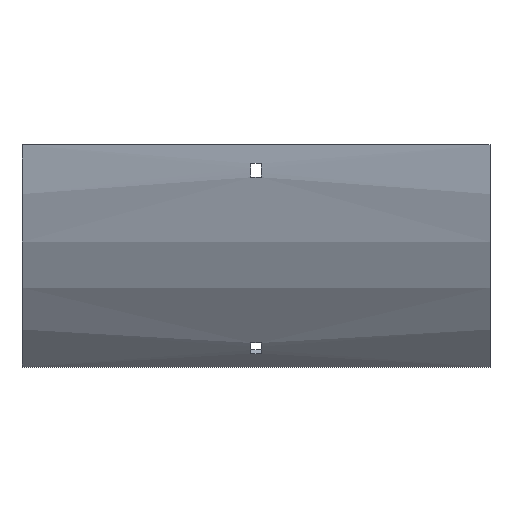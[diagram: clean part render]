
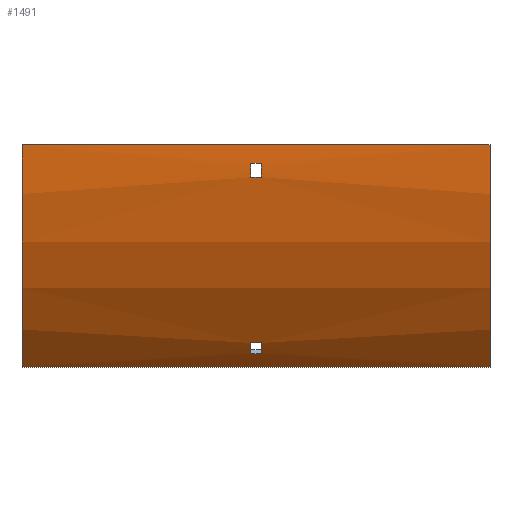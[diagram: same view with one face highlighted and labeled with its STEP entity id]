
A CAD part, front view. The second image highlights one B-rep face of the part: STEP entity #1491.
In plain terms, the highlighted cylindrical face has radius 204 mm (diameter 408 mm), a partial arc.
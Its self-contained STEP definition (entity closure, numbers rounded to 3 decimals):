
#4 = CARTESIAN_POINT ( 'NONE',  ( -3.25, -52.485, -135.515 ) ) ;
#48 = ORIENTED_EDGE ( 'NONE', *, *, #305, .F. ) ;
#63 = ORIENTED_EDGE ( 'NONE', *, *, #1082, .T. ) ;
#65 = VERTEX_POINT ( 'NONE', #1314 ) ;
#120 = VERTEX_POINT ( 'NONE', #4 ) ;
#132 = CARTESIAN_POINT ( 'NONE',  ( 152., -44.25, -144.25 ) ) ;
#176 = VERTEX_POINT ( 'NONE', #792 ) ;
#182 = VERTEX_POINT ( 'NONE', #519 ) ;
#189 = VECTOR ( 'NONE', #1650, 1000. ) ;
#202 = CARTESIAN_POINT ( 'NONE',  ( 3.25, -103.647, -12. ) ) ;
#214 = DIRECTION ( 'NONE',  ( 1., 0., 0. ) ) ;
#234 = ORIENTED_EDGE ( 'NONE', *, *, #494, .T. ) ;
#237 = AXIS2_PLACEMENT_3D ( 'NONE', #926, #658, #630 ) ;
#238 = ORIENTED_EDGE ( 'NONE', *, *, #370, .F. ) ;
#239 = EDGE_CURVE ( 'NONE', #1042, #120, #1527, .T. ) ;
#243 = DIRECTION ( 'NONE',  ( 0., 0., -1. ) ) ;
#262 = CARTESIAN_POINT ( 'NONE',  ( 152., -102.916, -21. ) ) ;
#274 = VERTEX_POINT ( 'NONE', #1026 ) ;
#281 = DIRECTION ( 'NONE',  ( 0., 0., 1. ) ) ;
#305 = EDGE_CURVE ( 'NONE', #587, #1042, #1044, .T. ) ;
#321 = ORIENTED_EDGE ( 'NONE', *, *, #1137, .T. ) ;
#328 = ORIENTED_EDGE ( 'NONE', *, *, #578, .F. ) ;
#356 = CARTESIAN_POINT ( 'NONE',  ( -3.25, 100., 0. ) ) ;
#364 = CARTESIAN_POINT ( 'NONE',  ( 152., -104., 0. ) ) ;
#370 = EDGE_CURVE ( 'NONE', #912, #456, #1339, .T. ) ;
#372 = CIRCLE ( 'NONE', #1674, 204. ) ;
#396 = DIRECTION ( 'NONE',  ( -1., 0., 0. ) ) ;
#427 = VECTOR ( 'NONE', #1027, 1000. ) ;
#438 = EDGE_LOOP ( 'NONE', ( #63, #238, #328, #321 ) ) ;
#440 = CARTESIAN_POINT ( 'NONE',  ( 152., -44.25, -144.25 ) ) ;
#442 = FACE_OUTER_BOUND ( 'NONE', #438, .T. ) ;
#444 = CIRCLE ( 'NONE', #1015, 204. ) ;
#456 = VERTEX_POINT ( 'NONE', #1475 ) ;
#470 = CARTESIAN_POINT ( 'NONE',  ( 152., -52.485, -135.515 ) ) ;
#473 = CIRCLE ( 'NONE', #1239, 204. ) ;
#491 = ORIENTED_EDGE ( 'NONE', *, *, #924, .T. ) ;
#492 = VERTEX_POINT ( 'NONE', #1114 ) ;
#494 = EDGE_CURVE ( 'NONE', #274, #176, #473, .T. ) ;
#506 = VECTOR ( 'NONE', #1485, 1000. ) ;
#519 = CARTESIAN_POINT ( 'NONE',  ( 3.25, -52.485, -135.515 ) ) ;
#536 = DIRECTION ( 'NONE',  ( 0., 0., -1. ) ) ;
#539 = EDGE_LOOP ( 'NONE', ( #739, #48, #1087, #1196 ) ) ;
#545 = VECTOR ( 'NONE', #1021, 1000. ) ;
#565 = AXIS2_PLACEMENT_3D ( 'NONE', #356, #1297, #243 ) ;
#578 = EDGE_CURVE ( 'NONE', #1171, #912, #444, .T. ) ;
#587 = VERTEX_POINT ( 'NONE', #1603 ) ;
#596 = DIRECTION ( 'NONE',  ( 0., 0., 1. ) ) ;
#613 = VECTOR ( 'NONE', #214, 1000. ) ;
#630 = DIRECTION ( 'NONE',  ( 0., 0., -1. ) ) ;
#658 = DIRECTION ( 'NONE',  ( 1., 0., 0. ) ) ;
#667 = CIRCLE ( 'NONE', #1293, 204. ) ;
#695 = FACE_BOUND ( 'NONE', #1019, .T. ) ;
#723 = CARTESIAN_POINT ( 'NONE',  ( 152., -104., 0. ) ) ;
#739 = ORIENTED_EDGE ( 'NONE', *, *, #239, .F. ) ;
#784 = ORIENTED_EDGE ( 'NONE', *, *, #1526, .T. ) ;
#792 = CARTESIAN_POINT ( 'NONE',  ( -3.25, -103.647, -12. ) ) ;
#898 = EDGE_CURVE ( 'NONE', #65, #274, #1427, .T. ) ;
#904 = CARTESIAN_POINT ( 'NONE',  ( 3.25, 100., 0. ) ) ;
#912 = VERTEX_POINT ( 'NONE', #132 ) ;
#924 = EDGE_CURVE ( 'NONE', #1131, #65, #1645, .T. ) ;
#926 = CARTESIAN_POINT ( 'NONE',  ( 3.25, 100., 0. ) ) ;
#946 = FACE_BOUND ( 'NONE', #539, .T. ) ;
#964 = CYLINDRICAL_SURFACE ( 'NONE', #1255, 204. ) ;
#1015 = AXIS2_PLACEMENT_3D ( 'NONE', #1318, #1583, #536 ) ;
#1019 = EDGE_LOOP ( 'NONE', ( #1609, #234, #784, #491 ) ) ;
#1021 = DIRECTION ( 'NONE',  ( 1., 0., 0. ) ) ;
#1026 = CARTESIAN_POINT ( 'NONE',  ( -3.25, -102.916, -21. ) ) ;
#1027 = DIRECTION ( 'NONE',  ( -1., 0., 0. ) ) ;
#1042 = VERTEX_POINT ( 'NONE', #1204 ) ;
#1044 = LINE ( 'NONE', #1582, #1331 ) ;
#1075 = DIRECTION ( 'NONE',  ( 1., 0., 0. ) ) ;
#1082 = EDGE_CURVE ( 'NONE', #492, #456, #372, .T. ) ;
#1087 = ORIENTED_EDGE ( 'NONE', *, *, #1694, .F. ) ;
#1101 = CARTESIAN_POINT ( 'NONE',  ( -3.25, 100., 0. ) ) ;
#1114 = CARTESIAN_POINT ( 'NONE',  ( -152., -104., 0. ) ) ;
#1116 = LINE ( 'NONE', #364, #189 ) ;
#1131 = VERTEX_POINT ( 'NONE', #202 ) ;
#1137 = EDGE_CURVE ( 'NONE', #1171, #492, #1116, .T. ) ;
#1171 = VERTEX_POINT ( 'NONE', #723 ) ;
#1190 = DIRECTION ( 'NONE',  ( -1., 0., 0. ) ) ;
#1196 = ORIENTED_EDGE ( 'NONE', *, *, #1634, .F. ) ;
#1204 = CARTESIAN_POINT ( 'NONE',  ( -3.25, -58.333, -128.634 ) ) ;
#1220 = DIRECTION ( 'NONE',  ( 0., 0., 1. ) ) ;
#1234 = DIRECTION ( 'NONE',  ( -1., 0., 0. ) ) ;
#1239 = AXIS2_PLACEMENT_3D ( 'NONE', #1101, #1639, #596 ) ;
#1255 = AXIS2_PLACEMENT_3D ( 'NONE', #1647, #1234, #1220 ) ;
#1274 = LINE ( 'NONE', #1393, #545 ) ;
#1293 = AXIS2_PLACEMENT_3D ( 'NONE', #904, #1190, #281 ) ;
#1297 = DIRECTION ( 'NONE',  ( 1., 0., 0. ) ) ;
#1314 = CARTESIAN_POINT ( 'NONE',  ( 3.25, -102.916, -21. ) ) ;
#1318 = CARTESIAN_POINT ( 'NONE',  ( 152., 100., 0. ) ) ;
#1331 = VECTOR ( 'NONE', #396, 1000. ) ;
#1339 = LINE ( 'NONE', #440, #506 ) ;
#1393 = CARTESIAN_POINT ( 'NONE',  ( 152., -103.647, -12. ) ) ;
#1427 = LINE ( 'NONE', #262, #427 ) ;
#1470 = CARTESIAN_POINT ( 'NONE',  ( -152., 100., 0. ) ) ;
#1475 = CARTESIAN_POINT ( 'NONE',  ( -152., -44.25, -144.25 ) ) ;
#1485 = DIRECTION ( 'NONE',  ( -1., 0., 0. ) ) ;
#1491 = ADVANCED_FACE ( 'NONE', ( #442, #695, #946 ), #964, .T. ) ;
#1526 = EDGE_CURVE ( 'NONE', #176, #1131, #1274, .T. ) ;
#1527 = CIRCLE ( 'NONE', #565, 204. ) ;
#1582 = CARTESIAN_POINT ( 'NONE',  ( 152., -58.333, -128.634 ) ) ;
#1583 = DIRECTION ( 'NONE',  ( 1., 0., 0. ) ) ;
#1603 = CARTESIAN_POINT ( 'NONE',  ( 3.25, -58.333, -128.634 ) ) ;
#1609 = ORIENTED_EDGE ( 'NONE', *, *, #898, .T. ) ;
#1624 = DIRECTION ( 'NONE',  ( 0., 0., -1. ) ) ;
#1634 = EDGE_CURVE ( 'NONE', #120, #182, #1671, .T. ) ;
#1639 = DIRECTION ( 'NONE',  ( -1., 0., 0. ) ) ;
#1645 = CIRCLE ( 'NONE', #237, 204. ) ;
#1647 = CARTESIAN_POINT ( 'NONE',  ( 152., 100., 0. ) ) ;
#1650 = DIRECTION ( 'NONE',  ( -1., 0., 0. ) ) ;
#1671 = LINE ( 'NONE', #470, #613 ) ;
#1674 = AXIS2_PLACEMENT_3D ( 'NONE', #1470, #1075, #1624 ) ;
#1694 = EDGE_CURVE ( 'NONE', #182, #587, #667, .T. ) ;
